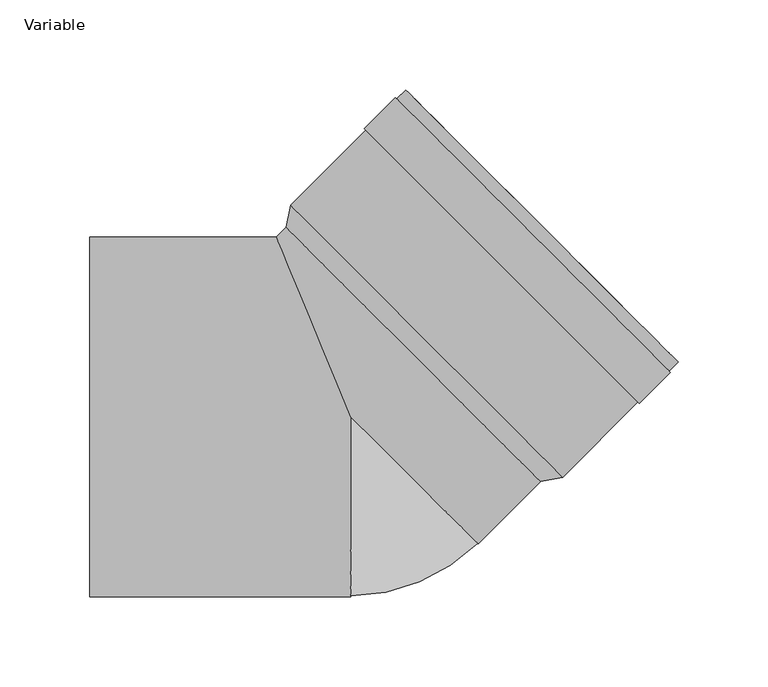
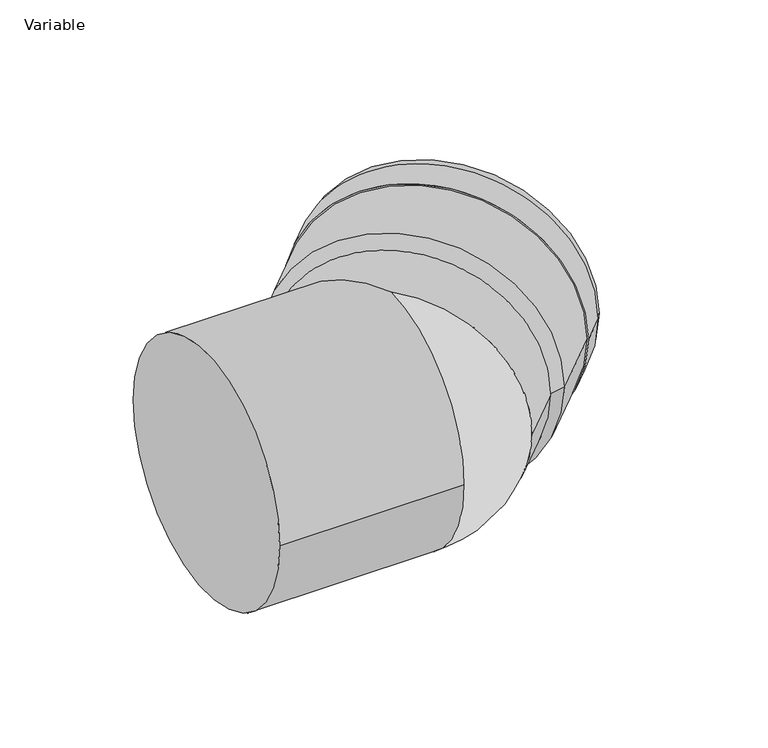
"""IFC4 building model written with IfcOpenShell, lengths in millimetres: pipe fitting geometry, AliaxisFR_Friaphon_ElbowMF_FR : Variable."""

from ifc_helpers import new_model, si_unit, point, frame, origin, place, context, project, spatial, polyline, circle_curve, ellipse_curve, trimmed, source, transform, mapped, element, save
from ifc_brep_helpers import plane_surface, cylinder_surface, revolved_surface, advanced_brep


def variable_2059baf6(model_context):
    return source(origin(), model_context, "Body", "AdvancedBrep", [
        advanced_brep(
        [(181.7264428, 30.4055916, 0.0), (30.4055916, 181.7264428, 0.0), (35.3553391, 176.7766953, 0.0), (176.7766953, 35.3553391, 0.0), (160.1596859, 7.4246212, 0.0), (7.4246212, 160.1596859, 0.0), (24.7487373, 177.4838021, 0.0), (177.4838021, 24.7487373, 0.0), (159.4525792, 8.131728, 0.0), (8.131728, 159.4525792, 0.0), (117.7332791, -33.5875721, 0.0), (-33.5875721, 117.7332791, 0.0), (-36.0624458, 105.3589104, 0.0), (105.3589104, -36.0624458, 0.0), (176.7766953, 25.4558441, 0.0), (25.4558441, 176.7766953, 0.0)],
        [
            (0, 1, circle_curve(frame((106.0660172, 106.0660172, 0.0), z_axis=(0.707106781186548, 0.7071067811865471, 0.0), x_axis=(-0.7071067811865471, 0.707106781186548, 0.0)), 107.0)),
            (1, 2),
            (2, 3, circle_curve(frame((106.0660172, 106.0660172, 0.0), z_axis=(-0.707106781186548, -0.7071067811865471, 0.0), x_axis=(-0.7071067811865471, 0.707106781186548, 0.0)), 100.0)),
            (3, 0),
            (1, 0, circle_curve(frame((106.0660172, 106.0660172, 0.0), z_axis=(0.707106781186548, 0.7071067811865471, 0.0), x_axis=(-0.7071067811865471, 0.707106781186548, 0.0)), 107.0)),
            (3, 2, circle_curve(frame((106.0660172, 106.0660172, 0.0), z_axis=(-0.707106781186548, -0.7071067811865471, 0.0), x_axis=(-0.7071067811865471, 0.707106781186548, 0.0)), 100.0)),
            (4, 5, circle_curve(frame((83.7921536, 83.7921536, 0.0), z_axis=(0.707106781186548, 0.7071067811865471, 0.0), x_axis=(-0.7071067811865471, 0.707106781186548, 0.0)), 108.0)),
            (5, 6),
            (6, 7, circle_curve(frame((101.1162697, 101.1162697, 0.0), z_axis=(-0.707106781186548, -0.7071067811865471, 0.0), x_axis=(-0.7071067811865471, 0.707106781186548, 0.0)), 108.0)),
            (7, 4),
            (5, 4, circle_curve(frame((83.7921536, 83.7921536, 0.0), z_axis=(0.707106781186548, 0.7071067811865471, 0.0), x_axis=(-0.7071067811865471, 0.707106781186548, 0.0)), 108.0)),
            (7, 6, circle_curve(frame((101.1162697, 101.1162697, 0.0), z_axis=(-0.707106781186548, -0.7071067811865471, 0.0), x_axis=(-0.7071067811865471, 0.707106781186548, 0.0)), 108.0)),
            (8, 9, circle_curve(frame((83.7921536, 83.7921536, 0.0), z_axis=(0.707106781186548, 0.7071067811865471, 0.0), x_axis=(-0.7071067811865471, 0.707106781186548, 0.0)), 107.0)),
            (9, 5),
            (4, 8),
            (9, 8, circle_curve(frame((83.7921536, 83.7921536, 0.0), z_axis=(0.707106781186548, 0.7071067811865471, 0.0), x_axis=(-0.7071067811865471, 0.707106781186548, 0.0)), 107.0)),
            (10, 11, circle_curve(frame((42.0728535, 42.0728535, 0.0), z_axis=(0.707106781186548, 0.7071067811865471, 0.0), x_axis=(-0.7071067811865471, 0.707106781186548, 0.0)), 107.0)),
            (11, 9),
            (8, 10),
            (11, 10, circle_curve(frame((42.0728535, 42.0728535, 0.0), z_axis=(0.707106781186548, 0.7071067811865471, 0.0), x_axis=(-0.7071067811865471, 0.707106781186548, 0.0)), 107.0)),
            (2, 12),
            (12, 13, circle_curve(frame((34.6482323, 34.6482323, 0.0), z_axis=(-0.707106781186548, -0.7071067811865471, 0.0), x_axis=(-0.7071067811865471, 0.707106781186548, 0.0)), 100.0)),
            (13, 3),
            (13, 12, circle_curve(frame((34.6482323, 34.6482323, 0.0), z_axis=(-0.707106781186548, -0.7071067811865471, 0.0), x_axis=(-0.7071067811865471, 0.707106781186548, 0.0)), 100.0)),
            (12, 11),
            (10, 13),
            (14, 15, circle_curve(frame((101.1162697, 101.1162697, 0.0), z_axis=(0.707106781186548, 0.7071067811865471, 0.0), x_axis=(-0.7071067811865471, 0.707106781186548, 0.0)), 107.0)),
            (15, 1),
            (0, 14),
            (15, 14, circle_curve(frame((101.1162697, 101.1162697, 0.0), z_axis=(0.707106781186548, 0.7071067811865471, 0.0), x_axis=(-0.7071067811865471, 0.707106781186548, 0.0)), 107.0)),
            (6, 15),
            (14, 7),
        ],
        [
            plane_surface(frame((106.0660172, 106.0660172, 0.0), z_axis=(0.707106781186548, 0.7071067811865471, 0.0), x_axis=(-0.7071067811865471, 0.707106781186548, 0.0))),
            cylinder_surface(frame((34.6482323, 34.6482323, 0.0), z_axis=(-0.707106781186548, -0.7071067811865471, 0.0), x_axis=(-0.7071067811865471, 0.707106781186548, 0.0)), 108.0),
            plane_surface(frame((83.7921536, 83.7921536, 0.0), z_axis=(-0.707106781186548, -0.7071067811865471, 0.0), x_axis=(-0.7071067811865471, 0.707106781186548, 0.0))),
            cylinder_surface(frame((34.6482323, 34.6482323, 0.0), z_axis=(-0.707106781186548, -0.7071067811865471, 0.0), x_axis=(-0.7071067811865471, 0.707106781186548, 0.0)), 107.0),
            revolved_surface(polyline([(-36.06244581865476, 105.35891041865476, 0.0), (35.355339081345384, 176.77669531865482, 0.0)]), (34.6482323, 34.6482323, 0.0), (-0.707106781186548, -0.7071067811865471, 0.0)),
            revolved_surface(polyline([(-33.5875721, 117.7332791, 0.0), (-36.0624458, 105.3589104, 0.0)]), (34.6482323, 34.6482323, 0.0), (-0.707106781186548, -0.7071067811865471, 0.0)),
            plane_surface(frame((101.1162697, 101.1162697, 0.0), z_axis=(0.707106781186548, 0.7071067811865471, 0.0), x_axis=(-0.7071067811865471, 0.707106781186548, 0.0))),
        ],
        [
            (0, [[1, 2, 3, 4]]),
            (0, [[5, -4, 6, -2]]),
            (1, [[7, 8, 9, 10]]),
            (1, [[11, -10, 12, -8]]),
            (2, [[13, 14, -7, 15]]),
            (2, [[16, -15, -11, -14]]),
            (3, [[17, 18, -13, 19]]),
            (3, [[20, -19, -16, -18]]),
            (4, [[-3, 21, 22, 23]]),
            (4, [[-6, -23, 24, -21]]),
            (5, [[-22, 25, -17, 26]]),
            (5, [[-24, -26, -20, -25]]),
            (3, [[27, 28, -1, 29]]),
            (3, [[30, -29, -5, -28]]),
            (6, [[-9, 31, -27, 32]]),
            (6, [[-12, -32, -30, -31]]),
        ],
    ),
        advanced_brep(
        [(-31.1126984, 110.3086579, 0.0), (110.3086579, -31.1126984, 0.0), (70.7106781, -70.7106781, 0.0), (-41.4213562, 100.0, 0.0), (0.0, 0.0, 100.0), (0.0, 0.0, -100.0), (-145.0, -100.0, 0.0), (-145.0, 100.0, 0.0), (0.0, -100.0, 0.0)],
        [
            (0, 1, circle_curve(frame((39.5979797, 39.5979797, 0.0), z_axis=(0.7071067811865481, 0.707106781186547, 0.0), x_axis=(-0.707106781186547, 0.7071067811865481, 0.0)), 100.0)),
            (1, 0, circle_curve(frame((39.5979797, 39.5979797, 0.0), z_axis=(0.7071067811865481, 0.707106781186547, 0.0), x_axis=(-0.707106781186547, 0.7071067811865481, 0.0)), 100.0)),
            (2, 1),
            (0, 3),
            (3, 4, ellipse_curve(frame((0.0, 0.0, 0.0), z_axis=(0.923879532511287, 0.38268343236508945, 0.0), x_axis=(0.38268343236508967, -0.923879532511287, 0.0)), 108.23922, 100.0)),
            (4, 2, circle_curve(frame((0.0, 0.0, 0.0), z_axis=(0.7071067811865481, 0.707106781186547, 0.0), x_axis=(-0.707106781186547, 0.7071067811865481, 0.0)), 100.0)),
            (2, 5, circle_curve(frame((0.0, 0.0, 0.0), z_axis=(0.7071067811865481, 0.707106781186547, 0.0), x_axis=(-0.707106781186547, 0.7071067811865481, 0.0)), 100.0)),
            (5, 3, ellipse_curve(frame((0.0, 0.0, 0.0), z_axis=(0.923879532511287, 0.38268343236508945, 0.0), x_axis=(0.38268343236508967, -0.923879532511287, 0.0)), 108.23922, 100.0)),
            (6, 7, circle_curve(frame((-145.0, 0.0, 0.0), z_axis=(-1.0, 0.0, 0.0), x_axis=(0.0, 1.0, 0.0)), 100.0)),
            (7, 6, circle_curve(frame((-145.0, 0.0, 0.0), z_axis=(-1.0, 0.0, 0.0), x_axis=(0.0, 1.0, 0.0)), 100.0)),
            (6, 8),
            (8, 4, circle_curve(frame((0.0, 0.0, 0.0), z_axis=(-1.0, 0.0, 0.0), x_axis=(0.0, 1.0, 0.0)), 100.0)),
            (3, 7),
            (5, 8, circle_curve(frame((0.0, 0.0, 0.0), z_axis=(-1.0, 0.0, 0.0), x_axis=(0.0, 1.0, 0.0)), 100.0)),
        ],
        [
            plane_surface(frame((39.5979797, 39.5979797, 0.0), z_axis=(0.7071067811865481, 0.707106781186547, 0.0), x_axis=(0.0, 0.0, 1.0))),
            cylinder_surface(frame((0.0, 0.0, 0.0), z_axis=(-0.7071067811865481, -0.707106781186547, 0.0), x_axis=(-0.707106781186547, 0.7071067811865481, 0.0)), 100.0),
            plane_surface(frame((-145.0, 0.0, 0.0), z_axis=(-1.0, 0.0, 0.0), x_axis=(0.0, 0.0, 1.0))),
            cylinder_surface(frame((-145.0, 0.0, 0.0), z_axis=(-1.0, 0.0, 0.0), x_axis=(0.0, 1.0, 0.0)), 100.0),
            revolved_surface(trimmed(ellipse_curve(frame((0.0, 0.0, 0.0), z_axis=(0.7071067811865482, 0.707106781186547, 0.0), x_axis=(-0.707106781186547, 0.7071067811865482, 0.0)), 100.0, 100.0), [point((0.0, 0.0, 100.0))], [point((0.0, 0.0, -100.0))], True, "CARTESIAN"), (0.0, 0.0, 100.0), (0.0, 0.0, -1.0)),
        ],
        [
            (0, [[1, 2]]),
            (1, [[3, -1, 4, 5, 6]]),
            (1, [[-2, -3, 7, 8, -4]]),
            (2, [[9, 10]]),
            (3, [[-9, 11, 12, -5, 13]]),
            (3, [[-10, -13, -8, 14, -11]]),
            (4, [[-12, -14, -7, -6]]),
        ],
    ),
    ])


if __name__ == "__main__":
    model = new_model("IFC4")
    model_context = context("Model", 3, world=origin())
    ifc_project = project(units=[si_unit("LENGTHUNIT", "METRE", prefix="MILLI")], contexts=[model_context])
    site = spatial("IfcSite", under=ifc_project)
    building = spatial("IfcBuilding", under=site)
    placement = place(None, origin())
    variable_shape = variable_2059baf6(model_context)
    element("IfcPipeFitting", 1, ObjectType="AliaxisFR_Friaphon_ElbowMF_FR : Variable", at=placement, inside=building, context=model_context, shape_type="MappedRepresentation", body=[
        mapped(variable_shape, transform((0.0, 0.0, 0.0), x_axis=(1.0, 0.0, 0.0), y_axis=(0.0, 1.0, 0.0), z_axis=(0.0, 0.0, 1.0))),
    ])
    save(model, "model.ifc")
